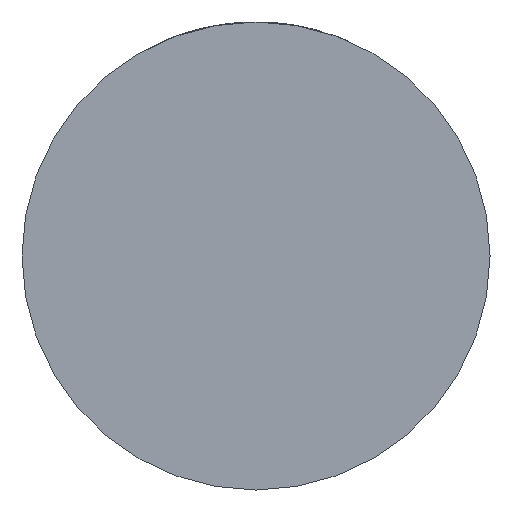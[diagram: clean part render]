
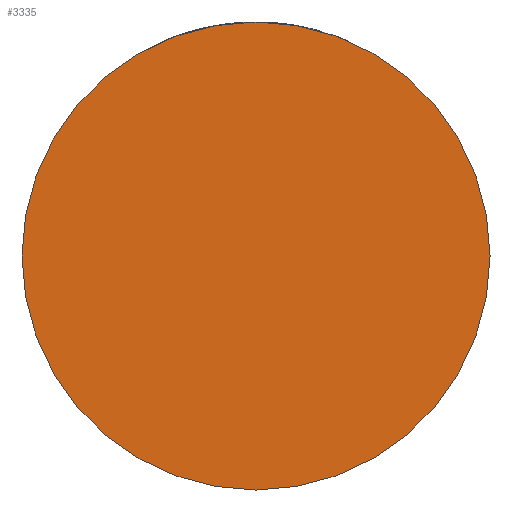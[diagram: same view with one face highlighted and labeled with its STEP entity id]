
A CAD part, front view. The second image highlights one B-rep face of the part: STEP entity #3335.
In plain terms, the highlighted planar face has unit normal (0, -1, 0).
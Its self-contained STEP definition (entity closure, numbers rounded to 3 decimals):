
#41 = CARTESIAN_POINT ( 'NONE',  ( 0., -25., 0. ) ) ;
#116 = CARTESIAN_POINT ( 'NONE',  ( -32., -25., 0. ) ) ;
#395 = CARTESIAN_POINT ( 'NONE',  ( 32., -25., 0. ) ) ;
#447 = FACE_OUTER_BOUND ( 'NONE', #2992, .T. ) ;
#607 = VERTEX_POINT ( 'NONE', #116 ) ;
#871 = AXIS2_PLACEMENT_3D ( 'NONE', #3865, #2855, #1872 ) ;
#1018 = EDGE_CURVE ( 'NONE', #607, #3928, #2015, .T. ) ;
#1206 = AXIS2_PLACEMENT_3D ( 'NONE', #1453, #2820, #2839 ) ;
#1453 = CARTESIAN_POINT ( 'NONE',  ( 0., -25., 0. ) ) ;
#1872 = DIRECTION ( 'NONE',  ( 1., 0., 0. ) ) ;
#2015 = CIRCLE ( 'NONE', #871, 32. ) ;
#2115 = DIRECTION ( 'NONE',  ( 0., -1., 0. ) ) ;
#2126 = CIRCLE ( 'NONE', #4060, 32. ) ;
#2259 = ORIENTED_EDGE ( 'NONE', *, *, #3200, .T. ) ;
#2548 = ORIENTED_EDGE ( 'NONE', *, *, #1018, .T. ) ;
#2799 = PLANE ( 'NONE',  #1206 ) ;
#2820 = DIRECTION ( 'NONE',  ( 0., -1., 0. ) ) ;
#2839 = DIRECTION ( 'NONE',  ( 1., 0., 0. ) ) ;
#2855 = DIRECTION ( 'NONE',  ( 0., -1., 0. ) ) ;
#2992 = EDGE_LOOP ( 'NONE', ( #2548, #2259 ) ) ;
#3200 = EDGE_CURVE ( 'NONE', #3928, #607, #2126, .T. ) ;
#3335 = ADVANCED_FACE ( 'NONE', ( #447 ), #2799, .T. ) ;
#3822 = DIRECTION ( 'NONE',  ( 1., 0., 0. ) ) ;
#3865 = CARTESIAN_POINT ( 'NONE',  ( 0., -25., 0. ) ) ;
#3928 = VERTEX_POINT ( 'NONE', #395 ) ;
#4060 = AXIS2_PLACEMENT_3D ( 'NONE', #41, #2115, #3822 ) ;
